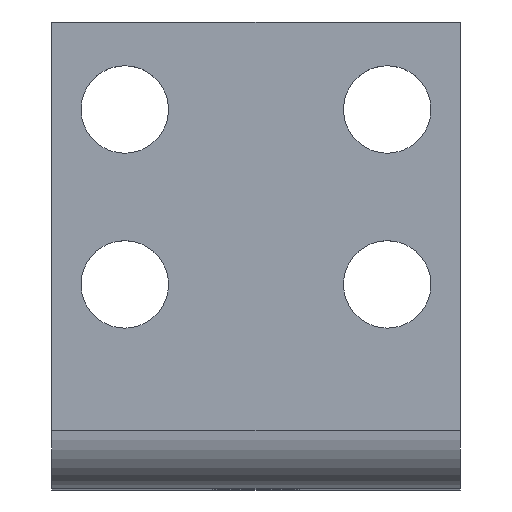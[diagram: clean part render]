
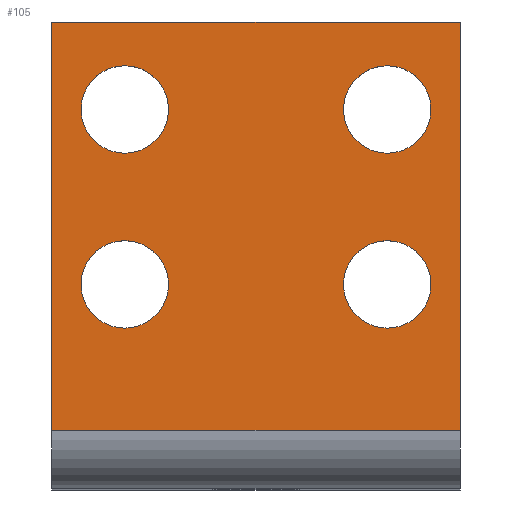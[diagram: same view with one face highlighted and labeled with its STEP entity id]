
A CAD part, top view. The second image highlights one B-rep face of the part: STEP entity #105.
In plain terms, the highlighted planar face has unit normal (0, 0, 1).
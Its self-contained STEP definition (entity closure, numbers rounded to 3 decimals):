
#51=PLANE('',#356);
#61=LINE('',#495,#81);
#67=LINE('',#508,#87);
#68=LINE('',#510,#88);
#69=LINE('',#512,#89);
#81=VECTOR('',#412,1.);
#87=VECTOR('',#422,1.);
#88=VECTOR('',#423,1.);
#89=VECTOR('',#424,1.);
#105=ADVANCED_FACE('',(#140,#141,#142,#143,#144),#51,.T.);
#140=FACE_BOUND('',#169,.T.);
#141=FACE_BOUND('',#170,.T.);
#142=FACE_BOUND('',#171,.T.);
#143=FACE_BOUND('',#172,.T.);
#144=FACE_BOUND('',#173,.T.);
#169=EDGE_LOOP('',(#212,#213,#214,#215));
#170=EDGE_LOOP('',(#216));
#171=EDGE_LOOP('',(#217));
#172=EDGE_LOOP('',(#218));
#173=EDGE_LOOP('',(#219));
#212=ORIENTED_EDGE('',*,*,#305,.F.);
#213=ORIENTED_EDGE('',*,*,#306,.T.);
#214=ORIENTED_EDGE('',*,*,#307,.F.);
#215=ORIENTED_EDGE('',*,*,#299,.T.);
#216=ORIENTED_EDGE('',*,*,#293,.F.);
#217=ORIENTED_EDGE('',*,*,#291,.F.);
#218=ORIENTED_EDGE('',*,*,#289,.F.);
#219=ORIENTED_EDGE('',*,*,#287,.F.);
#259=VERTEX_POINT('',#467);
#261=VERTEX_POINT('',#472);
#263=VERTEX_POINT('',#477);
#265=VERTEX_POINT('',#482);
#270=VERTEX_POINT('',#494);
#271=VERTEX_POINT('',#496);
#276=VERTEX_POINT('',#509);
#277=VERTEX_POINT('',#511);
#287=EDGE_CURVE('',#259,#259,#323,.T.);
#289=EDGE_CURVE('',#261,#261,#325,.T.);
#291=EDGE_CURVE('',#263,#263,#327,.T.);
#293=EDGE_CURVE('',#265,#265,#329,.T.);
#299=EDGE_CURVE('',#271,#270,#61,.T.);
#305=EDGE_CURVE('',#276,#270,#67,.T.);
#306=EDGE_CURVE('',#276,#277,#68,.T.);
#307=EDGE_CURVE('',#271,#277,#69,.T.);
#323=CIRCLE('',#342,7.5);
#325=CIRCLE('',#345,7.5);
#327=CIRCLE('',#348,7.5);
#329=CIRCLE('',#351,7.5);
#342=AXIS2_PLACEMENT_3D('',#466,#383,#384);
#345=AXIS2_PLACEMENT_3D('',#471,#389,#390);
#348=AXIS2_PLACEMENT_3D('',#476,#395,#396);
#351=AXIS2_PLACEMENT_3D('',#481,#401,#402);
#356=AXIS2_PLACEMENT_3D('',#513,#425,#426);
#383=DIRECTION('',(0.,0.,1.));
#384=DIRECTION('',(0.,-1.,0.));
#389=DIRECTION('',(0.,0.,1.));
#390=DIRECTION('',(0.,-1.,0.));
#395=DIRECTION('',(0.,0.,1.));
#396=DIRECTION('',(0.,-1.,0.));
#401=DIRECTION('',(0.,0.,1.));
#402=DIRECTION('',(0.,-1.,0.));
#412=DIRECTION('',(-1.,0.,0.));
#422=DIRECTION('',(0.,1.,0.));
#423=DIRECTION('',(1.,0.,0.));
#424=DIRECTION('',(0.,-1.,0.));
#425=DIRECTION('',(0.,0.,1.));
#426=DIRECTION('',(0.,-1.,0.));
#466=CARTESIAN_POINT('',(117.5,5194.,35.));
#467=CARTESIAN_POINT('',(117.5,5186.5,35.));
#471=CARTESIAN_POINT('',(117.5,5224.,35.));
#472=CARTESIAN_POINT('',(117.5,5216.5,35.));
#476=CARTESIAN_POINT('',(162.5,5224.,35.));
#477=CARTESIAN_POINT('',(162.5,5216.5,35.));
#481=CARTESIAN_POINT('',(162.5,5194.,35.));
#482=CARTESIAN_POINT('',(162.5,5186.5,35.));
#494=CARTESIAN_POINT('',(105.,5239.,35.));
#495=CARTESIAN_POINT('',(175.,5239.,35.));
#496=CARTESIAN_POINT('',(175.,5239.,35.));
#508=CARTESIAN_POINT('',(105.,5164.,35.));
#509=CARTESIAN_POINT('',(105.,5169.,35.));
#510=CARTESIAN_POINT('',(140.,5169.,35.));
#511=CARTESIAN_POINT('',(175.,5169.,35.));
#512=CARTESIAN_POINT('',(175.,5164.,35.));
#513=CARTESIAN_POINT('',(140.,5164.,35.));
